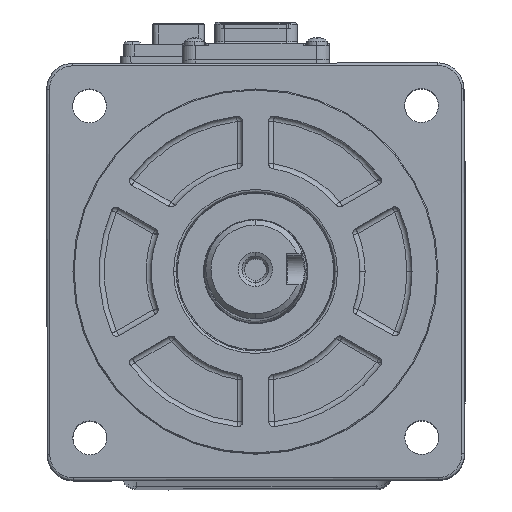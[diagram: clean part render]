
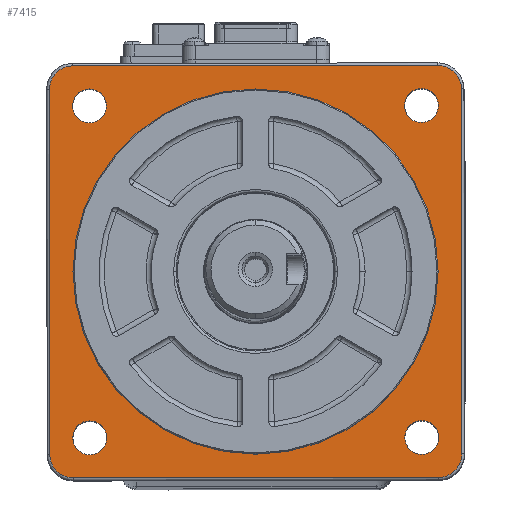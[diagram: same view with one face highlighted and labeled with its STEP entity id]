
A CAD part, top view. The second image highlights one B-rep face of the part: STEP entity #7415.
In plain terms, the highlighted planar face has unit normal (-0.001, 0.011, 1).
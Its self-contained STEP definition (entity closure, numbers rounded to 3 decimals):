
#325 = VERTEX_POINT('',#326);
#326 = CARTESIAN_POINT('',(35.026,-0.179,
    -19.691));
#332 = EDGE_CURVE('',#325,#333,#335,.T.);
#333 = VERTEX_POINT('',#334);
#334 = CARTESIAN_POINT('',(-34.974,-0.266,
    -19.783));
#335 = CIRCLE('',#336,35.);
#336 = AXIS2_PLACEMENT_3D('',#337,#338,#339);
#337 = CARTESIAN_POINT('',(0.026,-0.222,
    -19.737));
#338 = DIRECTION('',(-0.001,0.011,
    1.));
#339 = DIRECTION('',(1.,0.001,
    0.001));
#358 = VERTEX_POINT('',#359);
#359 = CARTESIAN_POINT('',(35.057,31.639,
    -20.049));
#365 = EDGE_CURVE('',#366,#358,#368,.T.);
#366 = VERTEX_POINT('',#367);
#367 = CARTESIAN_POINT('',(28.557,31.631,
    -20.058));
#368 = CIRCLE('',#369,3.25);
#369 = AXIS2_PLACEMENT_3D('',#370,#371,#372);
#370 = CARTESIAN_POINT('',(31.807,31.635,
    -20.054));
#371 = DIRECTION('',(-0.001,0.011,
    1.));
#372 = DIRECTION('',(1.,0.001,
    0.001));
#400 = VERTEX_POINT('',#401);
#401 = CARTESIAN_POINT('',(-28.583,31.56,
    -20.133));
#407 = EDGE_CURVE('',#408,#400,#410,.T.);
#408 = VERTEX_POINT('',#409);
#409 = CARTESIAN_POINT('',(-35.083,31.552,
    -20.142));
#410 = CIRCLE('',#411,3.25);
#411 = AXIS2_PLACEMENT_3D('',#412,#413,#414);
#412 = CARTESIAN_POINT('',(-31.833,31.556,
    -20.137));
#413 = DIRECTION('',(-0.001,0.011,
    1.));
#414 = DIRECTION('',(1.,0.001,
    0.001));
#442 = VERTEX_POINT('',#443);
#443 = CARTESIAN_POINT('',(35.135,-31.996,
    -19.332));
#449 = EDGE_CURVE('',#450,#442,#452,.T.);
#450 = VERTEX_POINT('',#451);
#451 = CARTESIAN_POINT('',(28.635,-32.004,
    -19.341));
#452 = CIRCLE('',#453,3.25);
#453 = AXIS2_PLACEMENT_3D('',#454,#455,#456);
#454 = CARTESIAN_POINT('',(31.885,-32.,
    -19.337));
#455 = DIRECTION('',(-0.001,0.011,
    1.));
#456 = DIRECTION('',(1.,0.001,
    0.001));
#484 = VERTEX_POINT('',#485);
#485 = CARTESIAN_POINT('',(-28.504,-32.076,
    -19.416));
#491 = EDGE_CURVE('',#492,#484,#494,.T.);
#492 = VERTEX_POINT('',#493);
#493 = CARTESIAN_POINT('',(-35.004,-32.084,-19.424
    ));
#494 = CIRCLE('',#495,3.25);
#495 = AXIS2_PLACEMENT_3D('',#496,#497,#498);
#496 = CARTESIAN_POINT('',(-31.754,-32.08,
    -19.42));
#497 = DIRECTION('',(-0.001,0.011,
    1.));
#498 = DIRECTION('',(1.,0.001,
    0.001));
#3615 = EDGE_CURVE('',#484,#492,#3616,.T.);
#3616 = CIRCLE('',#3617,3.25);
#3617 = AXIS2_PLACEMENT_3D('',#3618,#3619,#3620);
#3618 = CARTESIAN_POINT('',(-31.754,-32.08,
    -19.42));
#3619 = DIRECTION('',(-0.001,0.011,
    1.));
#3620 = DIRECTION('',(1.,0.001,
    0.001));
#3834 = EDGE_CURVE('',#442,#450,#3835,.T.);
#3835 = CIRCLE('',#3836,3.25);
#3836 = AXIS2_PLACEMENT_3D('',#3837,#3838,#3839);
#3837 = CARTESIAN_POINT('',(31.885,-32.,
    -19.337));
#3838 = DIRECTION('',(-0.001,0.011,
    1.));
#3839 = DIRECTION('',(1.,0.001,
    0.001));
#4500 = EDGE_CURVE('',#400,#408,#4501,.T.);
#4501 = CIRCLE('',#4502,3.25);
#4502 = AXIS2_PLACEMENT_3D('',#4503,#4504,#4505);
#4503 = CARTESIAN_POINT('',(-31.833,31.556,
    -20.137));
#4504 = DIRECTION('',(-0.001,0.011,
    1.));
#4505 = DIRECTION('',(1.,0.001,
    0.001));
#5166 = EDGE_CURVE('',#358,#366,#5167,.T.);
#5167 = CIRCLE('',#5168,3.25);
#5168 = AXIS2_PLACEMENT_3D('',#5169,#5170,#5171);
#5169 = CARTESIAN_POINT('',(31.807,31.635,
    -20.054));
#5170 = DIRECTION('',(-0.001,0.011,
    1.));
#5171 = DIRECTION('',(1.,0.001,
    0.001));
#7216 = VERTEX_POINT('',#7217);
#7217 = CARTESIAN_POINT('',(-35.023,39.231,
    -20.228));
#7226 = VERTEX_POINT('',#7227);
#7227 = CARTESIAN_POINT('',(-39.517,34.726,
    -20.183));
#7234 = EDGE_CURVE('',#7216,#7226,#7235,.T.);
#7235 = CIRCLE('',#7236,4.5);
#7236 = AXIS2_PLACEMENT_3D('',#7237,#7238,#7239);
#7237 = CARTESIAN_POINT('',(-35.017,34.732,
    -20.177));
#7238 = DIRECTION('',(-0.001,0.011,
    1.));
#7239 = DIRECTION('',(1.,0.001,
    0.001));
#7250 = VERTEX_POINT('',#7251);
#7251 = CARTESIAN_POINT('',(-39.431,-35.27,
    -19.394));
#7258 = EDGE_CURVE('',#7226,#7250,#7259,.T.);
#7259 = LINE('',#7260,#7261);
#7260 = CARTESIAN_POINT('',(-39.431,-35.27,
    -19.394));
#7261 = VECTOR('',#7262,1.);
#7262 = DIRECTION('',(0.001,-1.,
    0.011));
#7275 = VERTEX_POINT('',#7276);
#7276 = CARTESIAN_POINT('',(-34.925,-39.764,
    -19.338));
#7283 = EDGE_CURVE('',#7250,#7275,#7284,.T.);
#7284 = CIRCLE('',#7285,4.5);
#7285 = AXIS2_PLACEMENT_3D('',#7286,#7287,#7288);
#7286 = CARTESIAN_POINT('',(-34.931,-35.264,
    -19.388));
#7287 = DIRECTION('',(-0.001,0.011,
    1.));
#7288 = DIRECTION('',(1.,0.001,
    0.001));
#7301 = VERTEX_POINT('',#7302);
#7302 = CARTESIAN_POINT('',(35.075,-39.676,
    -19.246));
#7309 = EDGE_CURVE('',#7275,#7301,#7310,.T.);
#7310 = LINE('',#7311,#7312);
#7311 = CARTESIAN_POINT('',(35.075,-39.676,
    -19.246));
#7312 = VECTOR('',#7313,1.);
#7313 = DIRECTION('',(1.,0.001,
    0.001));
#7328 = VERTEX_POINT('',#7329);
#7329 = CARTESIAN_POINT('',(39.569,-35.171,
    -19.291));
#7336 = EDGE_CURVE('',#7301,#7328,#7337,.T.);
#7337 = CIRCLE('',#7338,4.5);
#7338 = AXIS2_PLACEMENT_3D('',#7339,#7340,#7341);
#7339 = CARTESIAN_POINT('',(35.069,-35.176,
    -19.296));
#7340 = DIRECTION('',(-0.001,0.011,
    1.));
#7341 = DIRECTION('',(1.,0.001,
    0.001));
#7354 = VERTEX_POINT('',#7355);
#7355 = CARTESIAN_POINT('',(39.483,34.825,
    -20.08));
#7362 = EDGE_CURVE('',#7328,#7354,#7363,.T.);
#7363 = LINE('',#7364,#7365);
#7364 = CARTESIAN_POINT('',(39.526,-0.173,
    -19.685));
#7365 = VECTOR('',#7366,1.);
#7366 = DIRECTION('',(-0.001,1.,
    -0.011));
#7379 = VERTEX_POINT('',#7380);
#7380 = CARTESIAN_POINT('',(34.977,39.319,
    -20.136));
#7387 = EDGE_CURVE('',#7354,#7379,#7388,.T.);
#7388 = CIRCLE('',#7389,4.5);
#7389 = AXIS2_PLACEMENT_3D('',#7390,#7391,#7392);
#7390 = CARTESIAN_POINT('',(34.983,34.819,
    -20.085));
#7391 = DIRECTION('',(-0.001,0.011,
    1.));
#7392 = DIRECTION('',(1.,0.001,
    0.001));
#7405 = EDGE_CURVE('',#7379,#7216,#7406,.T.);
#7406 = LINE('',#7407,#7408);
#7407 = CARTESIAN_POINT('',(-0.023,39.275,
    -20.182));
#7408 = VECTOR('',#7409,1.);
#7409 = DIRECTION('',(-1.,-0.001,
    -0.001));
#7415 = ADVANCED_FACE('',(#7416,#7426,#7436,#7440,#7444,#7448),#7452,.T.
  );
#7416 = FACE_BOUND('',#7417,.T.);
#7417 = EDGE_LOOP('',(#7418,#7419,#7420,#7421,#7422,#7423,#7424,#7425));
#7418 = ORIENTED_EDGE('',*,*,#7405,.T.);
#7419 = ORIENTED_EDGE('',*,*,#7234,.T.);
#7420 = ORIENTED_EDGE('',*,*,#7258,.T.);
#7421 = ORIENTED_EDGE('',*,*,#7283,.T.);
#7422 = ORIENTED_EDGE('',*,*,#7309,.T.);
#7423 = ORIENTED_EDGE('',*,*,#7336,.T.);
#7424 = ORIENTED_EDGE('',*,*,#7362,.T.);
#7425 = ORIENTED_EDGE('',*,*,#7387,.T.);
#7426 = FACE_BOUND('',#7427,.T.);
#7427 = EDGE_LOOP('',(#7428,#7435));
#7428 = ORIENTED_EDGE('',*,*,#7429,.F.);
#7429 = EDGE_CURVE('',#333,#325,#7430,.T.);
#7430 = CIRCLE('',#7431,35.);
#7431 = AXIS2_PLACEMENT_3D('',#7432,#7433,#7434);
#7432 = CARTESIAN_POINT('',(0.026,-0.222,
    -19.737));
#7433 = DIRECTION('',(-0.001,0.011,
    1.));
#7434 = DIRECTION('',(1.,0.001,
    0.001));
#7435 = ORIENTED_EDGE('',*,*,#332,.F.);
#7436 = FACE_BOUND('',#7437,.T.);
#7437 = EDGE_LOOP('',(#7438,#7439));
#7438 = ORIENTED_EDGE('',*,*,#3834,.F.);
#7439 = ORIENTED_EDGE('',*,*,#449,.F.);
#7440 = FACE_BOUND('',#7441,.T.);
#7441 = EDGE_LOOP('',(#7442,#7443));
#7442 = ORIENTED_EDGE('',*,*,#3615,.F.);
#7443 = ORIENTED_EDGE('',*,*,#491,.F.);
#7444 = FACE_BOUND('',#7445,.T.);
#7445 = EDGE_LOOP('',(#7446,#7447));
#7446 = ORIENTED_EDGE('',*,*,#4500,.F.);
#7447 = ORIENTED_EDGE('',*,*,#407,.F.);
#7448 = FACE_BOUND('',#7449,.T.);
#7449 = EDGE_LOOP('',(#7450,#7451));
#7450 = ORIENTED_EDGE('',*,*,#5166,.F.);
#7451 = ORIENTED_EDGE('',*,*,#365,.F.);
#7452 = PLANE('',#7453);
#7453 = AXIS2_PLACEMENT_3D('',#7454,#7455,#7456);
#7454 = CARTESIAN_POINT('',(0.026,-0.222,
    -19.737));
#7455 = DIRECTION('',(-0.001,0.011,
    1.));
#7456 = DIRECTION('',(1.,0.001,
    0.001));
